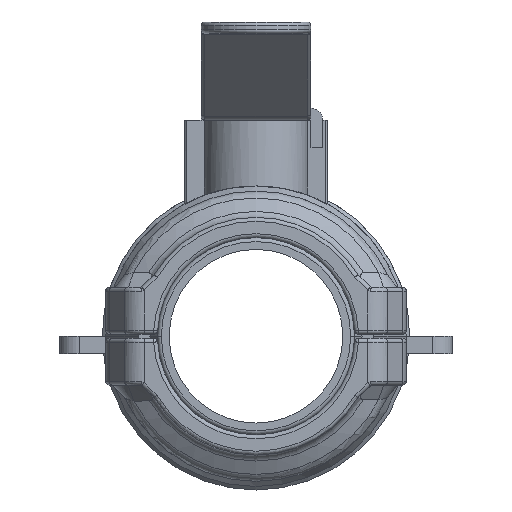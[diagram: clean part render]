
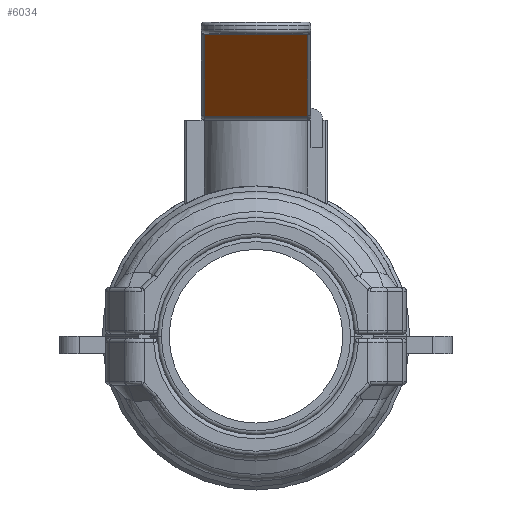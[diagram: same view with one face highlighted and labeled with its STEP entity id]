
A CAD part, left-side view. The second image highlights one B-rep face of the part: STEP entity #6034.
In plain terms, the highlighted planar face has unit normal (-0.668, 0, -0.744).
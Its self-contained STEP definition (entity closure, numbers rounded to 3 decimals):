
#2820=DIRECTION('',(0.744,0.,-0.668));
#2821=VECTOR('',#2820,31.198);
#2822=CARTESIAN_POINT('',(37.475,13.078,77.203));
#2823=LINE('',#2822,#2821);
#2827=DIRECTION('',(0.,-1.,0.));
#2828=VECTOR('',#2827,26.155);
#2829=CARTESIAN_POINT('',(37.475,13.078,77.203));
#2830=LINE('',#2829,#2828);
#2834=DIRECTION('',(-0.744,0.,0.668));
#2835=VECTOR('',#2834,31.198);
#2836=CARTESIAN_POINT('',(60.688,-13.078,56.359));
#2837=LINE('',#2836,#2835);
#2841=DIRECTION('',(0.,1.,0.));
#2842=VECTOR('',#2841,26.155);
#2843=CARTESIAN_POINT('',(60.688,-13.078,56.359));
#2844=LINE('',#2843,#2842);
#3537=CARTESIAN_POINT('',(60.688,13.078,56.359));
#3538=VERTEX_POINT('',#3537);
#3541=CARTESIAN_POINT('',(37.475,13.078,77.203));
#3542=VERTEX_POINT('',#3541);
#3561=CARTESIAN_POINT('',(37.475,-13.078,77.203));
#3562=VERTEX_POINT('',#3561);
#3565=CARTESIAN_POINT('',(60.688,-13.078,56.359));
#3566=VERTEX_POINT('',#3565);
#6021=CARTESIAN_POINT('',(37.189,14.084,77.46));
#6022=DIRECTION('',(-0.668,0.,-0.744));
#6023=DIRECTION('',(0.744,0.,-0.668));
#6024=AXIS2_PLACEMENT_3D('',#6021,#6022,#6023);
#6025=PLANE('',#6024);
#6027=ORIENTED_EDGE('',*,*,#6026,.F.);
#6028=ORIENTED_EDGE('',*,*,#5976,.T.);
#6029=ORIENTED_EDGE('',*,*,#6012,.F.);
#6031=ORIENTED_EDGE('',*,*,#6030,.T.);
#6032=EDGE_LOOP('',(#6027,#6028,#6029,#6031));
#6033=FACE_OUTER_BOUND('',#6032,.F.);
#5976=EDGE_CURVE('',#3542,#3562,#2830,.T.);
#6012=EDGE_CURVE('',#3566,#3562,#2837,.T.);
#6026=EDGE_CURVE('',#3542,#3538,#2823,.T.);
#6030=EDGE_CURVE('',#3566,#3538,#2844,.T.);
#6034=ADVANCED_FACE('',(#6033),#6025,.T.);
